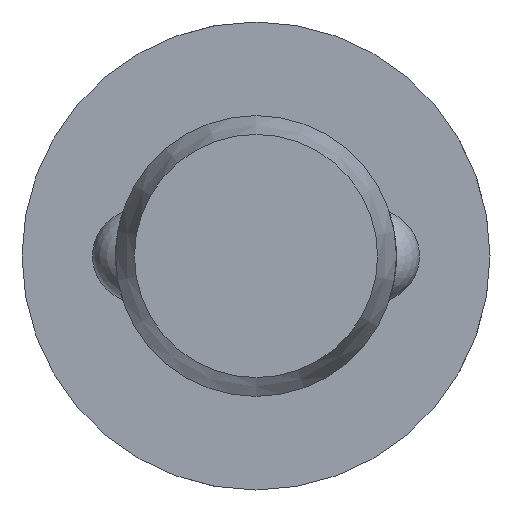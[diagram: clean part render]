
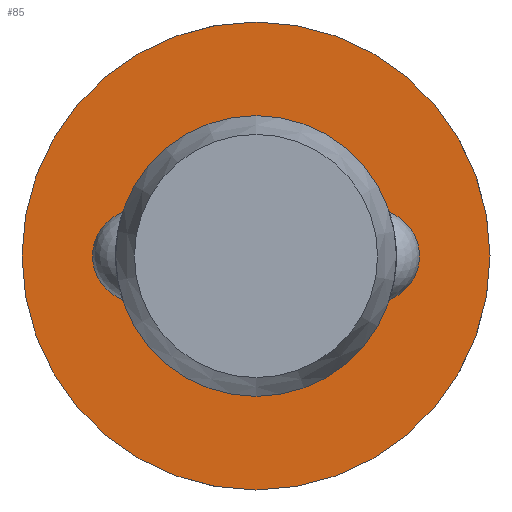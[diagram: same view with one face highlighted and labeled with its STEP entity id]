
A CAD part, left-side view. The second image highlights one B-rep face of the part: STEP entity #85.
In plain terms, the highlighted planar face has unit normal (-1, 0, 0).
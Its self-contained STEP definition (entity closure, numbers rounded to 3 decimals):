
#85 = ADVANCED_FACE( '', ( #131, #132 ), #133, .F. );
#131 = FACE_OUTER_BOUND( '', #204, .T. );
#132 = FACE_BOUND( '', #205, .T. );
#133 = PLANE( '', #206 );
#204 = EDGE_LOOP( '', ( #322 ) );
#205 = EDGE_LOOP( '', ( #323 ) );
#206 = AXIS2_PLACEMENT_3D( '', #324, #325, #326 );
#322 = ORIENTED_EDGE( '', *, *, #470, .F. );
#323 = ORIENTED_EDGE( '', *, *, #467, .T. );
#324 = CARTESIAN_POINT( '', ( 52., 3., 0. ) );
#325 = DIRECTION( '', ( 1., 0., 0. ) );
#326 = DIRECTION( '', ( 0., 0., -1. ) );
#467 = EDGE_CURVE( '', #541, #541, #542, .T. );
#470 = EDGE_CURVE( '', #547, #547, #548, .T. );
#541 = VERTEX_POINT( '', #749 );
#542 = CIRCLE( '', #750, 3. );
#547 = VERTEX_POINT( '', #817 );
#548 = CIRCLE( '', #818, 5. );
#749 = CARTESIAN_POINT( '', ( 52., 0., -3. ) );
#750 = AXIS2_PLACEMENT_3D( '', #897, #898, #899 );
#817 = CARTESIAN_POINT( '', ( 52., 0., -5. ) );
#818 = AXIS2_PLACEMENT_3D( '', #900, #901, #902 );
#897 = CARTESIAN_POINT( '', ( 52., 0., 0. ) );
#898 = DIRECTION( '', ( 1., 0., 0. ) );
#899 = DIRECTION( '', ( 0., 0., -1. ) );
#900 = CARTESIAN_POINT( '', ( 52., 0., 0. ) );
#901 = DIRECTION( '', ( 1., 0., 0. ) );
#902 = DIRECTION( '', ( 0., 0., -1. ) );
